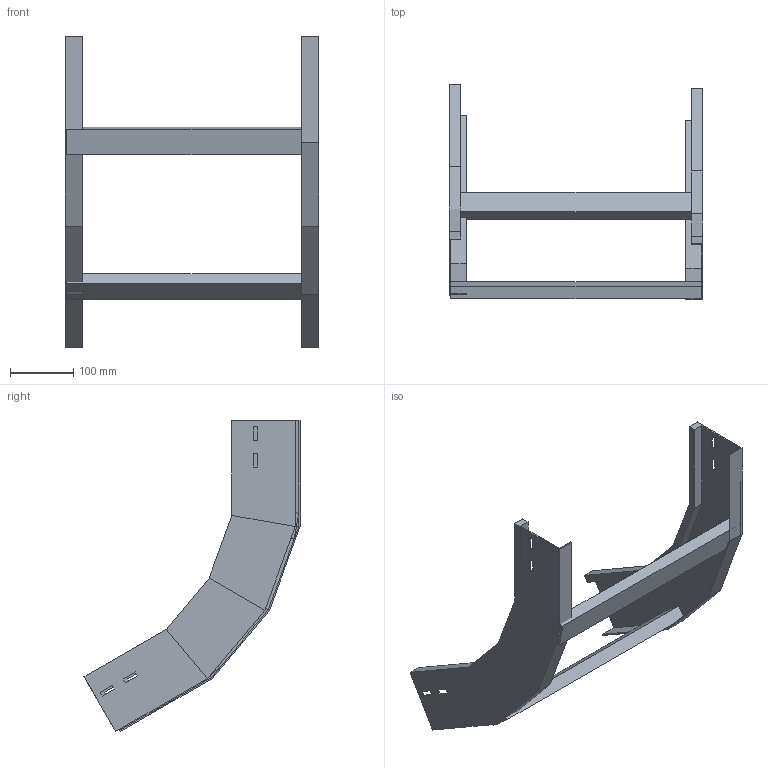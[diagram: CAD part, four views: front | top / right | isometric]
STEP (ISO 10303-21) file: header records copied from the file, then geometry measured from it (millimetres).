
FILE_DESCRIPTION (( 'STEP AP214' ), '1' );
FILE_NAME ('A2X40B3D400XX.step', '2025-04-02T09:43:43', ( '' ), ( '' ), 'SwSTEP 2.0', 'SolidWorks 2023', '' );
FILE_SCHEMA (( 'AUTOMOTIVE_DESIGN' ));
Length unit declared in the file: millimetre
Products named in the file (3): LONGH.SALITA_60°_H100_R300; TRAVERSINO_400; A2X40B3D400XX
Assembly tree (4 placements, depth 2):
  A2X40B3D400XX
    LONGH.SALITA_60°_H100_R300  x2
    TRAVERSINO_400  x2
Bounding box: 400 x 340.82 x 490.76 mm (x, y, z)
Volume: 1123970 mm3; surface area: 423488.7 mm2
Topology: 4 solids, 4 shells, 112 faces, 264 edges, 160 vertices
Faces by surface type: plane 112
Entity records: 1664 total; most frequent: CARTESIAN_POINT 275, ORIENTED_EDGE 264, DIRECTION 258, LINE 132, EDGE_CURVE 132, VECTOR 132, VERTEX_POINT 80, EDGE_LOOP 64
